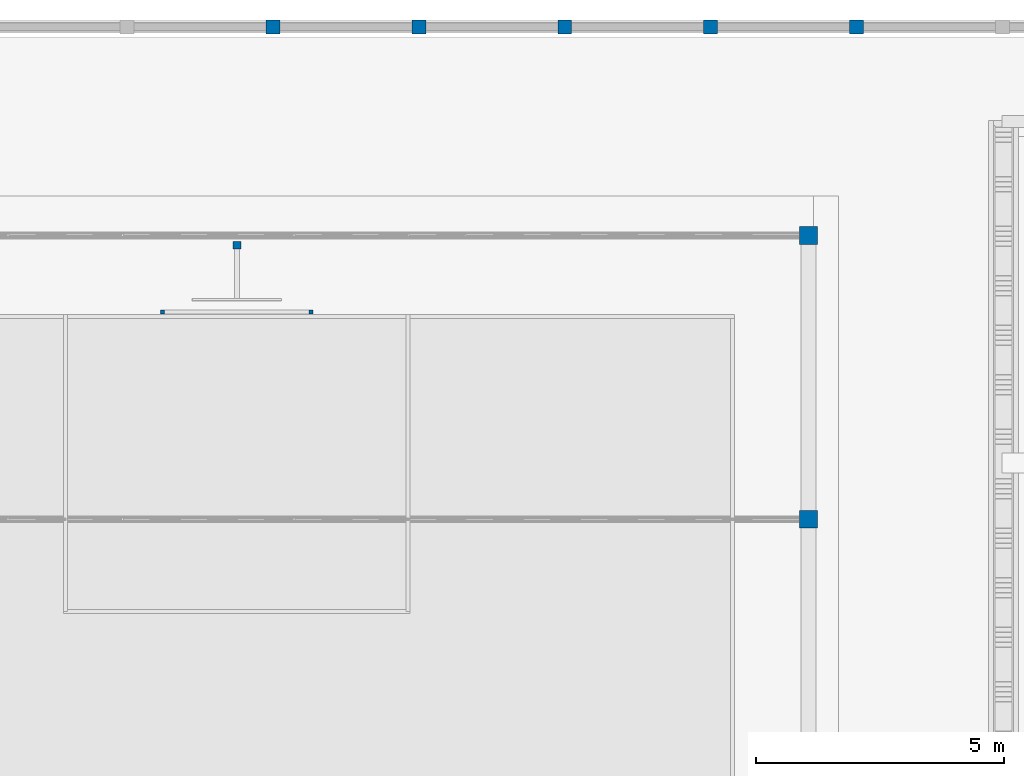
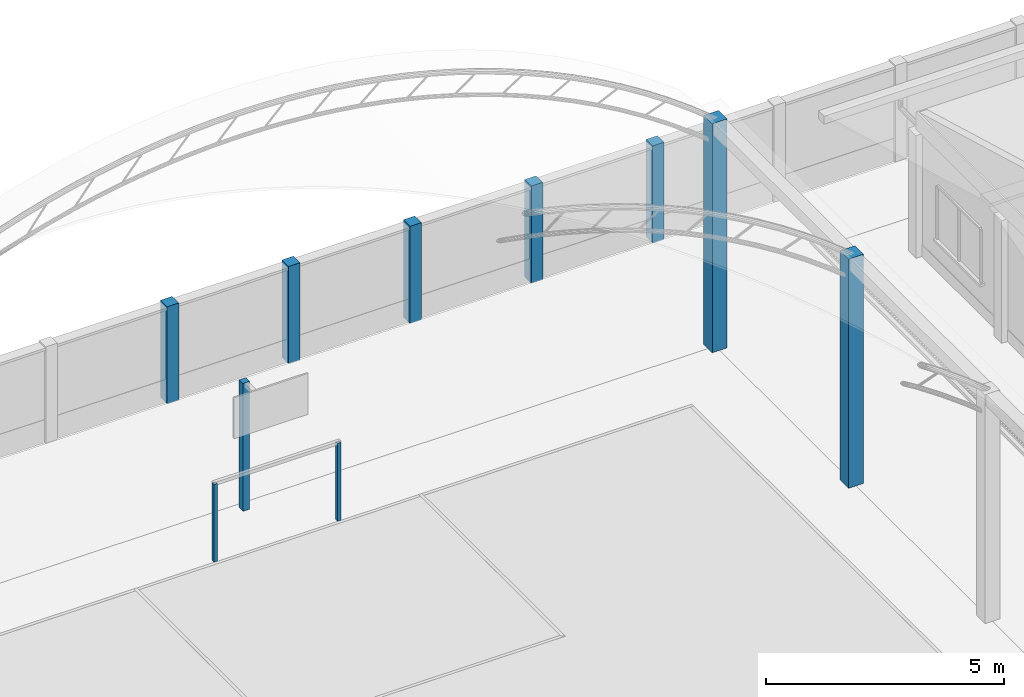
# One storey, part 10 of 166: 10 columns.
"""IFC2X3 building model written with IfcOpenShell, lengths in metres."""

from ifc_helpers import new_model, si_unit, origin, origin_with_axes, place, context, subcontext, project, spatial, faceted_brep, element, save


model = new_model("IFC2X3")

# Units and contexts
model_context = context("Model", 3, precision=1e-05, world=origin_with_axes())
body_context = subcontext(model_context, "Body", "Model", "MODEL_VIEW")
ifc_project = project(units=[si_unit("LENGTHUNIT", "METRE"), si_unit("AREAUNIT", "SQUARE_METRE"), si_unit("VOLUMEUNIT", "CUBIC_METRE"), si_unit("PLANEANGLEUNIT", "RADIAN")], contexts=[model_context])

# Site, building, storey
site_placement = place(None, origin_with_axes())
site = spatial("IfcSite", under=ifc_project, at=site_placement, Name="Predio Los Mangos - Morales, San Martín", CompositionType="ELEMENT")
building_placement = place(site_placement, origin())
building = spatial("IfcBuilding", under=site, at=building_placement, Name="Hogar de Refugio Temporal", CompositionType="ELEMENT")
storey_placement = place(building_placement, origin())
storey = spatial("IfcBuildingStorey", under=building, at=storey_placement, Name="NIVEL 1 (NPT +0.00)", CompositionType="ELEMENT", Elevation=0.0)

# Columns
column_1_placement = place(storey_placement, origin())
element("IfcColumn", 1, at=column_1_placement, inside=storey, Name="poste_arco", ObjectType="Columna", context=body_context, shape_type="Brep", body=[
    faceted_brep([(13.51, 125.41, 0.12), (13.51, 125.49, 0.12), (13.59, 125.49, 0.12), (13.59, 125.41, 0.12), (13.51, 125.41, 2.12), (13.59, 125.41, 2.12), (13.59, 125.49, 2.12), (13.51, 125.49, 2.12)], [[[0, 1, 2, 3]], [[4, 5, 6, 7]], [[0, 3, 5, 4]], [[3, 2, 6, 5]], [[2, 1, 7, 6]], [[1, 0, 4, 7]]]),
])
column_2_placement = place(storey_placement, origin())
element("IfcColumn", 2, at=column_2_placement, inside=storey, Name="poste_arco", ObjectType="Columna", context=body_context, shape_type="Brep", body=[
    faceted_brep([(16.51, 125.41, 0.12), (16.51, 125.49, 0.12), (16.59, 125.49, 0.12), (16.59, 125.41, 0.12), (16.51, 125.41, 2.12), (16.59, 125.41, 2.12), (16.59, 125.49, 2.12), (16.51, 125.49, 2.12)], [[[0, 1, 2, 3]], [[4, 5, 6, 7]], [[0, 3, 5, 4]], [[3, 2, 6, 5]], [[2, 1, 7, 6]], [[1, 0, 4, 7]]]),
])
column_3_placement = place(storey_placement, origin())
element("IfcColumn", 3, at=column_3_placement, inside=storey, Name="poste_basquet", ObjectType="Columna", context=body_context, shape_type="Brep", body=[
    faceted_brep([(14.97, 126.72, 0.12), (14.97, 126.88, 0.12), (15.13, 126.88, 0.12), (15.13, 126.72, 0.12), (14.97, 126.72, 3.4), (15.13, 126.72, 3.4), (15.13, 126.88, 3.4), (14.97, 126.88, 3.4)], [[[0, 1, 2, 3]], [[4, 5, 6, 7]], [[0, 3, 5, 4]], [[3, 2, 6, 5]], [[2, 1, 7, 6]], [[1, 0, 4, 7]]]),
])
column_4_placement = place(storey_placement, origin())
element("IfcColumn", 4, at=column_4_placement, inside=storey, Name="columna_losa", ObjectType="Columna", context=body_context, shape_type="Brep", body=[
    faceted_brep([(26.42, 121.0867, 0.12), (26.42, 121.4467, 0.12), (26.78, 121.4467, 0.12), (26.78, 121.0867, 0.12), (26.42, 121.0867, 6.0), (26.78, 121.0867, 6.0), (26.78, 121.4467, 6.0), (26.42, 121.4467, 6.0)], [[[0, 1, 2, 3]], [[4, 5, 6, 7]], [[0, 3, 5, 4]], [[3, 2, 6, 5]], [[2, 1, 7, 6]], [[1, 0, 4, 7]]]),
])
column_5_placement = place(storey_placement, origin())
element("IfcColumn", 5, at=column_5_placement, inside=storey, Name="columna_losa", ObjectType="Columna", context=body_context, shape_type="Brep", body=[
    faceted_brep([(26.42, 126.82, 0.12), (26.42, 127.18, 0.12), (26.78, 127.18, 0.12), (26.78, 126.82, 0.12), (26.42, 126.82, 6.0), (26.78, 126.82, 6.0), (26.78, 127.18, 6.0), (26.42, 127.18, 6.0)], [[[0, 1, 2, 3]], [[4, 5, 6, 7]], [[0, 3, 5, 4]], [[3, 2, 6, 5]], [[2, 1, 7, 6]], [[1, 0, 4, 7]]]),
])
column_6_placement = place(storey_placement, origin())
element("IfcColumn", 6, at=column_6_placement, inside=storey, Name="columna_cerco", ObjectType="Columna", context=body_context, shape_type="Brep", body=[
    faceted_brep([(27.7062, 131.35, 0.0), (27.7062, 131.07, 0.0), (27.4263, 131.07, 0.0), (27.4263, 131.35, 0.0), (27.7062, 131.35, 2.5), (27.4263, 131.35, 2.5), (27.4263, 131.07, 2.5), (27.7062, 131.07, 2.5)], [[[0, 1, 2, 3]], [[4, 5, 6, 7]], [[0, 3, 5, 4]], [[3, 2, 6, 5]], [[2, 1, 7, 6]], [[1, 0, 4, 7]]]),
])
column_7_placement = place(storey_placement, origin())
element("IfcColumn", 7, at=column_7_placement, inside=storey, Name="columna_cerco", ObjectType="Columna", context=body_context, shape_type="Brep", body=[
    faceted_brep([(24.76, 131.35, 0.0), (24.76, 131.07, 0.0), (24.48, 131.07, 0.0), (24.48, 131.35, 0.0), (24.76, 131.35, 2.5), (24.48, 131.35, 2.5), (24.48, 131.07, 2.5), (24.76, 131.07, 2.5)], [[[0, 1, 2, 3]], [[4, 5, 6, 7]], [[0, 3, 5, 4]], [[3, 2, 6, 5]], [[2, 1, 7, 6]], [[1, 0, 4, 7]]]),
])
column_8_placement = place(storey_placement, origin())
element("IfcColumn", 8, at=column_8_placement, inside=storey, Name="columna_cerco", ObjectType="Columna", context=body_context, shape_type="Brep", body=[
    faceted_brep([(21.8137, 131.35, 0.0), (21.8137, 131.07, 0.0), (21.5338, 131.07, 0.0), (21.5338, 131.35, 0.0), (21.8137, 131.35, 2.5), (21.5338, 131.35, 2.5), (21.5338, 131.07, 2.5), (21.8137, 131.07, 2.5)], [[[0, 1, 2, 3]], [[4, 5, 6, 7]], [[0, 3, 5, 4]], [[3, 2, 6, 5]], [[2, 1, 7, 6]], [[1, 0, 4, 7]]]),
])
column_9_placement = place(storey_placement, origin())
element("IfcColumn", 9, at=column_9_placement, inside=storey, Name="columna_cerco", ObjectType="Columna", context=body_context, shape_type="Brep", body=[
    faceted_brep([(18.8675, 131.35, 0.0), (18.8675, 131.07, 0.0), (18.5875, 131.07, 0.0), (18.5875, 131.35, 0.0), (18.8675, 131.35, 2.5), (18.5875, 131.35, 2.5), (18.5875, 131.07, 2.5), (18.8675, 131.07, 2.5)], [[[0, 1, 2, 3]], [[4, 5, 6, 7]], [[0, 3, 5, 4]], [[3, 2, 6, 5]], [[2, 1, 7, 6]], [[1, 0, 4, 7]]]),
])
column_10_placement = place(storey_placement, origin())
element("IfcColumn", 10, at=column_10_placement, inside=storey, Name="columna_cerco", ObjectType="Columna", context=body_context, shape_type="Brep", body=[
    faceted_brep([(15.9213, 131.35, 0.0), (15.9213, 131.07, 0.0), (15.6412, 131.07, 0.0), (15.6412, 131.35, 0.0), (15.9213, 131.35, 2.5), (15.6412, 131.35, 2.5), (15.6412, 131.07, 2.5), (15.9213, 131.07, 2.5)], [[[0, 1, 2, 3]], [[4, 5, 6, 7]], [[0, 3, 5, 4]], [[3, 2, 6, 5]], [[2, 1, 7, 6]], [[1, 0, 4, 7]]]),
])

save(model, "model.ifc")
